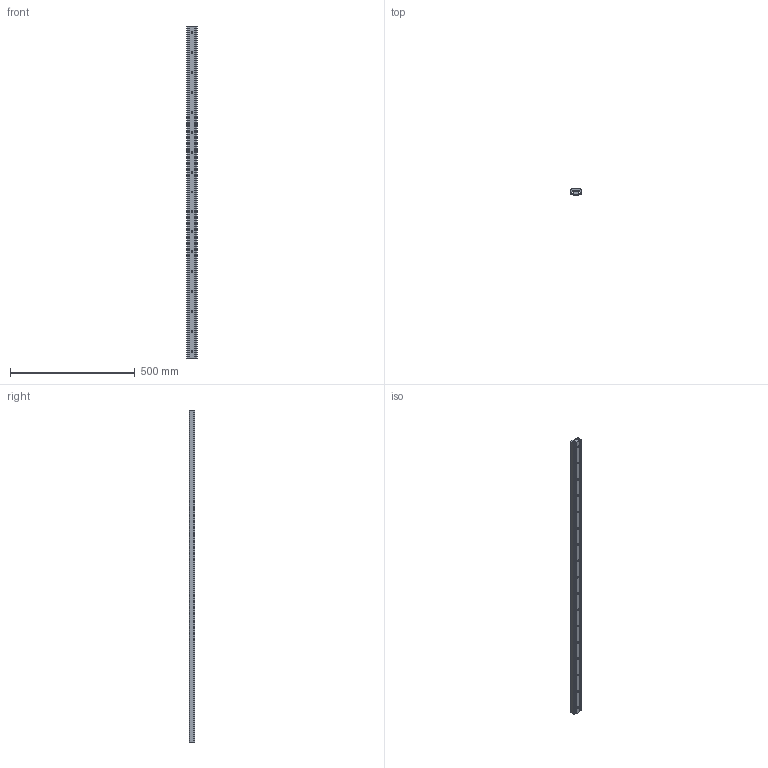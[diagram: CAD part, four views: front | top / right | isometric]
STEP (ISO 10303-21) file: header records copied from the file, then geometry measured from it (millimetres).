
FILE_DESCRIPTION(('STEP AP214'),'1');
FILE_NAME('rail_asn43-1330_00.stp','2017-06-06T10:19:15',('TraceParts'),('TraceParts S.A.'),'Spatial InterOp 3D',' ',' ');
FILE_SCHEMA(('automotive_design'));
Length unit declared in the file: millimetre
Products named in the file (2): rail_asn43-1330_00_1; rail_asn43-1330_00_2
Bounding box: 43 x 22.01 x 1330 mm (x, y, z)
Volume: 809522.5 mm3; surface area: 313194.2 mm2
Topology: 2 solids, 2 shells, 247 faces, 612 edges, 374 vertices
Faces by surface type: cone 102, cylinder 99, plane 46
Entity records: 7496 total; most frequent: DIRECTION 1410, CARTESIAN_POINT 1235, ORIENTED_EDGE 1224, EDGE_CURVE 612, AXIS2_PLACEMENT_3D 549, VERTEX_POINT 374, EDGE_LOOP 320, LINE 312
